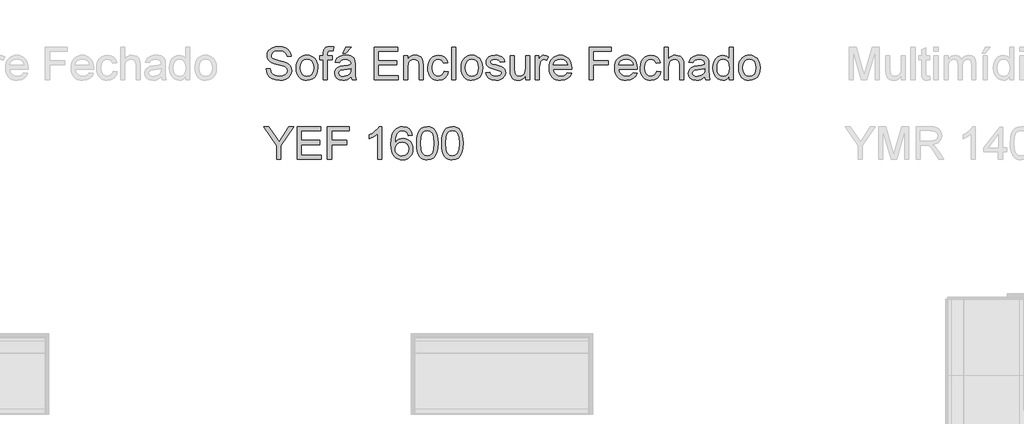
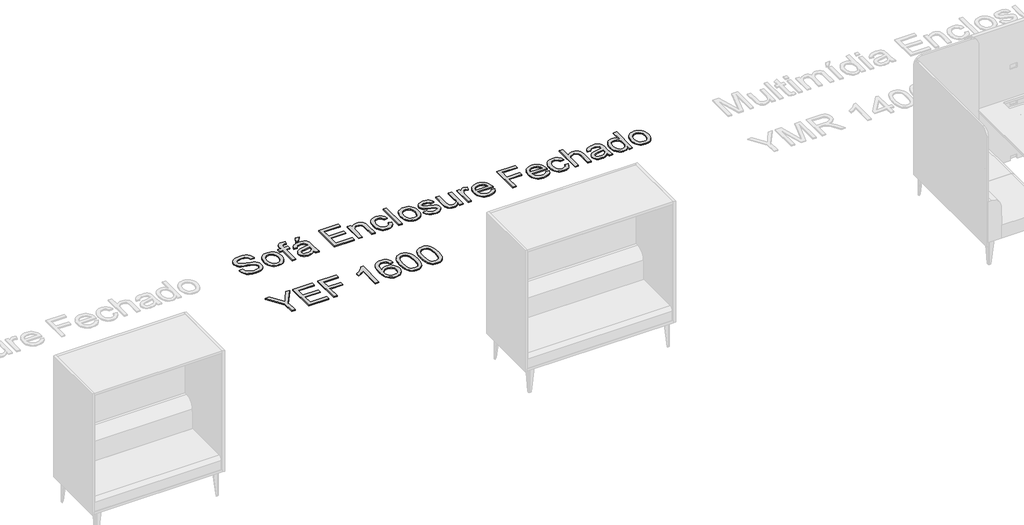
# One storey, part 12 of 26: 1 proxy.
"""IFC4 building model written with IfcOpenShell, lengths in millimetres."""

from ifc_helpers import new_model, si_unit, origin, origin_with_axes, place, context, project, spatial, polyline, outline, extrude, element, save

model = new_model("IFC4")

# Units and contexts
model_context = context("Model", 3, world=origin())
ifc_project = project(units=[si_unit("LENGTHUNIT", "METRE", prefix="MILLI")], contexts=[model_context])

# Site, building, storey
site = spatial("IfcSite", under=ifc_project)
building = spatial("IfcBuilding", under=site)
storey = spatial("IfcBuildingStorey", under=building, Name="Marelli - Linha YOUNG - Planta Baixa", Elevation=0.0)

# Proxy
placement = place(None, origin())
element("IfcBuildingElementProxy", 1, Name="300mm Arial", ObjectType="300mm Arial", at=placement, inside=storey, context=model_context, shape_type="SweptSolid", body=[
    extrude(outline(polyline([(3632.2284572, -27311.0462967), (3669.8995735, -27311.0462967), (3674.2221869, -27331.9511911), (3682.0396793, -27348.7542012), (3694.2349674, -27362.0899235), (3711.6909681, -27372.5929545), (3733.0281238, -27379.4079684), (3756.8668771, -27381.6796398), (3777.8545449, -27379.9597914), (3796.2302506, -27374.8002465), (3811.1202744, -27366.6332662), (3821.6508965, -27355.8911119), (3827.9140874, -27343.557868), (3830.0018178, -27330.6176188), (3828.4383193, -27318.0084634), (3823.7478238, -27307.1099593), (3814.2196802, -27297.8117419), (3798.143237, -27290.0034466), (3743.2920315, -27275.6192606), (3707.2855812, -27266.1003139), (3684.2469713, -27257.0412198), (3665.4941866, -27244.3676851), (3652.2044495, -27229.0086118), (3644.2857895, -27211.2950937), (3641.6462362, -27191.5582247), (3644.9111889, -27169.494502), (3654.7060471, -27148.9207014), (3670.7732932, -27131.4830948), (3692.85541, -27118.8279542), (3719.3613077, -27111.1300235), (3748.6998968, -27108.5640465), (3780.4849012, -27111.2495851), (3808.29678, -27119.3062008), (3831.1422519, -27132.5683467), (3848.0280355, -27150.870476), (3858.7150075, -27173.0721544), (3862.9640445, -27198.0329478), (3825.2929282, -27198.0329478), (3818.3767467, -27175.5553579), (3803.9557725, -27159.3317619), (3781.4230003, -27149.5093126), (3750.1714248, -27146.2351629), (3718.1840853, -27149.4725244), (3696.2399243, -27159.1846091), (3683.5479955, -27173.4768246), (3679.3173525, -27190.4545787), (3682.3155908, -27204.9307352), (3691.3103056, -27216.5742003), (3712.5738849, -27226.9852608), (3752.8201752, -27237.6170505), (3794.3540524, -27247.7154112), (3819.4803927, -27256.526185), (3840.9555042, -27270.1930011), (3855.9374984, -27287.0603906), (3864.7390752, -27306.9444124), (3867.6729341, -27329.6611256), (3864.2976168, -27352.8836766), (3854.1716648, -27374.7266701), (3837.7089456, -27393.52544), (3815.3233262, -27407.6153204), (3788.4035612, -27416.4168972), (3758.3384051, -27419.3507561), (3721.4306439, -27416.1869709), (3691.0527882, -27406.6956154), (3666.85535, -27390.8399014), (3648.4888413, -27368.5830407), (3636.6982234, -27341.4701377), (3632.2284572, -27311.0462967)])), origin_with_axes(), (0.0, 0.0, 1.0), 10.0),
    extrude(outline(polyline([(3910.0529399, -27303.9829624), (3912.0900865, -27275.3203564), (3918.2015261, -27250.621679), (3928.3872588, -27229.88693), (3942.6472847, -27213.1161096), (3957.0038795, -27202.3969479), (3972.8503965, -27194.7404039), (3990.1868355, -27190.1464775), (4009.0131966, -27188.6151687), (4029.7962301, -27190.4798706), (4048.5881022, -27196.0739761), (4065.3888131, -27205.3974855), (4080.1983627, -27218.4503985), (4092.2855855, -27234.7912569), (4100.9193161, -27253.9786022), (4106.0995544, -27276.0124344), (4107.8263005, -27300.8927536), (4104.77288, -27338.950146), (4095.6126183, -27367.9208531), (4080.6122299, -27389.6166938), (4060.0384293, -27405.8494868), (4035.6018678, -27415.9754388), (4009.0131966, -27419.3507561), (3987.9266605, -27417.492952), (3968.9600444, -27411.9195398), (3952.1133483, -27402.6305194), (3937.3865722, -27389.6258909), (3925.428108, -27373.1263834), (3916.886348, -27353.3527261), (3911.7612919, -27330.3049191), (3910.0529399, -27303.9829624)]), holes=[polyline([(3947.7240562, -27303.909386), (3952.0834579, -27338.0028499), (3965.1616628, -27362.2922586), (3984.8433495, -27376.8327945), (4009.0131966, -27381.6796398), (4033.0726791, -27376.8052033), (4052.7175776, -27362.181894), (4065.7957826, -27337.5705885), (4070.1551842, -27302.7321636), (4065.7681914, -27269.6319811), (4052.607213, -27245.6736661), (4032.9347234, -27231.1331303), (4009.0131966, -27226.286285), (3984.8433495, -27231.1147362), (3965.1616628, -27245.6000897), (3952.0834579, -27269.8343162), (3947.7240562, -27303.909386)])]), origin_with_axes(), (0.0, 0.0, 1.0), 10.0),
    extrude(outline(polyline([(4159.6240854, -27414.6418665), (4159.6240854, -27230.9951745), (4126.6618587, -27230.9951745), (4126.6618587, -27193.3240582), (4159.6240854, -27193.3240582), (4159.6240854, -27171.0304093), (4163.597211, -27139.6132869), (4171.1755801, -27127.086905), (4182.8742275, -27117.1724852), (4199.2449763, -27110.7161562), (4220.8396494, -27108.5640465), (4255.1998278, -27112.6843249), (4249.6815979, -27148.0009964), (4227.9765601, -27146.2351629), (4213.6567535, -27147.7986613), (4204.2481715, -27152.4891568), (4199.0334442, -27161.4470834), (4197.2952017, -27175.8128753), (4197.2952017, -27193.3240582), (4239.6752076, -27193.3240582), (4239.6752076, -27230.9951745), (4197.2952017, -27230.9951745), (4197.2952017, -27414.6418665), (4159.6240854, -27414.6418665)])), origin_with_axes(), (0.0, 0.0, 1.0), 10.0),
    extrude(outline(polyline([(4413.9041205, -27386.3885293), (4395.9054939, -27401.821179), (4377.3734384, -27411.9195398), (4357.8848897, -27417.492952), (4337.0167835, -27419.3507561), (4305.5352818, -27414.8809898), (4282.3127308, -27401.4716911), (4267.9929242, -27381.1094227), (4263.2196553, -27355.7807473), (4265.0222771, -27340.1641566), (4270.4301424, -27325.9823057), (4278.7718666, -27313.8421999), (4289.3760651, -27304.3508444), (4315.7532042, -27291.9900093), (4348.347549, -27286.3246266), (4386.8647939, -27280.3649383), (4413.6833913, -27273.3751804), (4413.9041205, -27264.9874709), (4411.3105524, -27248.1752637), (4403.5298482, -27237.1755921), (4386.1290299, -27229.0086118), (4361.8856064, -27226.286285), (4339.4448047, -27228.0981038), (4323.7730317, -27233.5335603), (4313.0860597, -27243.5859358), (4305.5996611, -27259.2485118), (4267.9285448, -27254.5396222), (4274.4676473, -27233.9382305), (4284.2257172, -27217.7514227), (4298.1132625, -27205.3721936), (4317.0407912, -27196.1935378), (4340.1897657, -27190.509761), (4366.7416487, -27188.6151687), (4392.2082798, -27190.2890318), (4412.3958043, -27195.310621), (4427.6169219, -27202.861399), (4438.1843322, -27212.1228282), (4445.1924842, -27223.5731553), (4449.7358268, -27237.6906269), (4451.5752368, -27270.6528536), (4451.5752368, -27317.5210198), (4453.4882232, -27382.9672267), (4460.9930159, -27414.6418665), (4423.3218996, -27414.6418665), (4413.9041205, -27386.3885293)]), holes=[polyline([(4413.9041205, -27311.0462967), (4353.1300149, -27322.5977913), (4320.7196111, -27328.7046325), (4306.0411195, -27338.6374463), (4300.8907716, -27353.1319969), (4303.6958718, -27364.3340037), (4312.1111724, -27373.5126595), (4325.9527325, -27379.6378947), (4345.036611, -27381.6796398), (4365.2701207, -27379.4263625), (4383.1491857, -27372.6665309), (4397.6437363, -27362.7061259), (4407.723703, -27350.8511286), (4412.1934692, -27338.6374463), (4413.6833913, -27321.7148746), (4413.9041205, -27311.0462967)])]), origin_with_axes(), (0.0, 0.0, 1.0), 10.0),
    extrude(outline(polyline([(4338.5618879, -27169.7796105), (4366.8152251, -27113.2729361), (4413.9041205, -27113.2729361), (4366.8152251, -27169.7796105), (4338.5618879, -27169.7796105)])), origin_with_axes(), (0.0, 0.0, 1.0), 10.0),
    extrude(outline(polyline([(4625.8041497, -27414.6418665), (4625.8041497, -27113.2729361), (4842.4130685, -27113.2729361), (4842.4130685, -27150.9440524), (4663.475266, -27150.9440524), (4663.475266, -27240.4129536), (4832.9952894, -27240.4129536), (4832.9952894, -27278.0840699), (4663.475266, -27278.0840699), (4663.475266, -27376.9707502), (4847.121958, -27376.9707502), (4847.121958, -27414.6418665), (4625.8041497, -27414.6418665)])), origin_with_axes(), (0.0, 0.0, 1.0), 10.0),
    extrude(outline(polyline([(4898.9197429, -27414.6418665), (4898.9197429, -27193.3240582), (4936.5908593, -27193.3240582), (4936.5908593, -27224.2261458), (4949.6782612, -27208.6463433), (4965.3960195, -27197.517913), (4983.744134, -27190.8408548), (5004.7226048, -27188.6151687), (5023.2914485, -27190.4085934), (5040.2967937, -27195.7888676), (5054.4786446, -27204.0846066), (5064.5770054, -27214.6244258), (5075.8709826, -27242.32594), (5077.8575454, -27278.7462575), (5077.8575454, -27414.6418665), (5040.1864291, -27414.6418665), (5040.1864291, -27283.823029), (5035.8454216, -27250.4929203), (5029.839748, -27240.5693035), (5020.5047424, -27232.8713727), (5008.5393805, -27227.9325569), (4994.6426381, -27226.286285), (4972.5789154, -27229.9834991), (4953.7709484, -27241.0751412), (4946.2546594, -27250.1296368), (4940.8858815, -27262.5042674), (4936.5908593, -27297.2139337), (4936.5908593, -27414.6418665), (4898.9197429, -27414.6418665)])), origin_with_axes(), (0.0, 0.0, 1.0), 10.0),
    extrude(outline(polyline([(5270.9220165, -27334.5907444), (5308.5931328, -27339.2996339), (5298.0901018, -27372.8044866), (5278.3532328, -27398.1239649), (5251.2403297, -27414.0440583), (5218.6091968, -27419.3507561), (5197.4812739, -27417.4998498), (5178.5376504, -27411.9471309), (5161.7783263, -27402.6925995), (5147.2033015, -27389.7362555), (5135.4057858, -27373.3218207), (5126.9789888, -27353.693017), (5121.9229106, -27330.8498443), (5120.2375512, -27304.7923028), (5123.1162279, -27271.269056), (5131.7522577, -27242.2155754), (5146.2835965, -27218.7539012), (5166.8482, -27202.0060733), (5191.4503085, -27191.9628949), (5218.094162, -27188.6151687), (5249.9251516, -27193.2136936), (5275.3733886, -27207.0092685), (5293.6295326, -27229.2661292), (5303.8842432, -27259.2485118), (5266.2131269, -27263.9574013), (5259.3797189, -27247.5222732), (5248.7387322, -27235.7408523), (5234.878778, -27228.6499268), (5218.3884676, -27226.286285), (5194.0438765, -27230.9399922), (5174.7208747, -27244.901114), (5162.1117193, -27268.9238082), (5157.9086676, -27303.7622332), (5162.0197488, -27339.0697077), (5174.3529927, -27363.1751754), (5193.3265066, -27377.0535237), (5217.358398, -27381.6796398), (5236.8653408, -27378.7917661), (5252.8590105, -27370.1281451), (5264.4932786, -27355.4680476), (5270.9220165, -27334.5907444)])), origin_with_axes(), (0.0, 0.0, 1.0), 10.0),
    extrude(outline(polyline([(5341.5553595, -27414.6418665), (5341.5553595, -27113.2729361), (5379.2264758, -27113.2729361), (5379.2264758, -27414.6418665), (5341.5553595, -27414.6418665)])), origin_with_axes(), (0.0, 0.0, 1.0), 10.0),
    extrude(outline(polyline([(5426.3153712, -27303.9829624), (5428.3525178, -27275.3203564), (5434.4639574, -27250.621679), (5444.6496902, -27229.88693), (5458.909716, -27213.1161096), (5473.2663109, -27202.3969479), (5489.1128278, -27194.7404039), (5506.4492668, -27190.1464775), (5525.2756279, -27188.6151687), (5546.0586614, -27190.4798706), (5564.8505336, -27196.0739761), (5581.6512444, -27205.3974855), (5596.460794, -27218.4503985), (5608.5480168, -27234.7912569), (5617.1817474, -27253.9786022), (5622.3619857, -27276.0124344), (5624.0887318, -27300.8927536), (5621.0353113, -27338.950146), (5611.8750496, -27367.9208531), (5596.8746612, -27389.6166938), (5576.3008607, -27405.8494868), (5551.8642991, -27415.9754388), (5525.2756279, -27419.3507561), (5504.1890918, -27417.492952), (5485.2224757, -27411.9195398), (5468.3757796, -27402.6305194), (5453.6490035, -27389.6258909), (5441.6905394, -27373.1263834), (5433.1487793, -27353.3527261), (5428.0237232, -27330.3049191), (5426.3153712, -27303.9829624)]), holes=[polyline([(5463.9864875, -27303.909386), (5468.3458892, -27338.0028499), (5481.4240941, -27362.2922586), (5501.1057809, -27376.8327945), (5525.2756279, -27381.6796398), (5549.3351104, -27376.8052033), (5568.980009, -27362.181894), (5582.0582139, -27337.5705885), (5586.4176155, -27302.7321636), (5582.0306227, -27269.6319811), (5568.8696444, -27245.6736661), (5549.1971547, -27231.1331303), (5525.2756279, -27226.286285), (5501.1057809, -27231.1147362), (5481.4240941, -27245.6000897), (5468.3458892, -27269.8343162), (5463.9864875, -27303.909386)])]), origin_with_axes(), (0.0, 0.0, 1.0), 10.0),
    extrude(outline(polyline([(5652.3420691, -27348.717413), (5690.0131854, -27344.0085235), (5695.9544796, -27360.1217548), (5707.4507919, -27371.9675551), (5724.5756988, -27379.2516186), (5747.4027766, -27381.6796398), (5769.9539429, -27379.4539537), (5785.8096569, -27372.7768955), (5795.1906478, -27363.101599), (5798.3176448, -27351.8811982), (5795.1722537, -27342.2794781), (5785.7360805, -27334.9586264), (5746.9613182, -27324.2164721), (5690.2339146, -27305.7855842), (5675.8773197, -27296.5241549), (5665.4754563, -27284.2644874), (5659.157083, -27269.7883309), (5657.0509586, -27253.8774346), (5658.7432158, -27239.2817165), (5663.8199873, -27225.8080384), (5671.8214207, -27213.9898293), (5682.2876635, -27204.3605181), (5706.2367814, -27193.2136936), (5738.6471851, -27188.6151687), (5763.1665201, -27190.4637757), (5784.4852817, -27196.0095968), (5801.6285827, -27204.710006), (5813.6215358, -27216.0223773), (5821.5677869, -27230.7836424), (5826.570982, -27249.8307327), (5788.8998657, -27254.5396222), (5784.1449909, -27242.6846249), (5774.7364089, -27233.7542895), (5760.5821491, -27228.1532861), (5741.5902411, -27226.286285), (5719.9587798, -27228.0705127), (5705.5378056, -27233.4231957), (5697.4260076, -27241.1487176), (5694.7220749, -27250.0514619), (5699.2102353, -27261.0143453), (5713.2633275, -27269.3284784), (5745.7105194, -27277.3483059), (5801.0031833, -27295.0802181), (5815.6080985, -27303.5598981), (5826.6813466, -27315.166575), (5833.6619074, -27329.9370371), (5835.9887611, -27347.9080726), (5833.2572372, -27366.4861134), (5825.0626658, -27383.9605081), (5811.7177464, -27398.9608965), (5793.5351788, -27410.116918), (5771.5726237, -27417.0422966), (5746.8877418, -27419.3507561), (5708.9039258, -27414.8993839), (5681.1840175, -27401.5452675), (5662.6795531, -27379.4355596), (5652.3420691, -27348.717413)])), origin_with_axes(), (0.0, 0.0, 1.0), 10.0),
    extrude(outline(polyline([(6019.6354531, -27414.6418665), (6019.6354531, -27376.6028682), (6006.0054251, -27395.3050692), (5990.131317, -27408.6637841), (5972.0131288, -27416.6790131), (5951.6508603, -27419.3507561), (5933.3027458, -27417.4745579), (5916.2238242, -27411.8459634), (5901.8948205, -27403.3846775), (5891.7964597, -27393.0104052), (5880.5760589, -27365.2721028), (5878.3687669, -27330.2497368), (5878.3687669, -27193.3240582), (5916.0398832, -27193.3240582), (5916.0398832, -27312.5178247), (5918.3207516, -27350.924705), (5923.8113904, -27363.7361954), (5933.2199724, -27373.4758713), (5945.9210983, -27379.6286976), (5961.2893686, -27381.6796398), (5977.5405558, -27379.5827124), (5992.7432792, -27373.2919303), (6005.2788582, -27363.3867076), (6013.5286119, -27350.4464584), (6018.1087428, -27332.7237433), (6019.6354531, -27308.4711227), (6019.6354531, -27193.3240582), (6057.3065694, -27193.3240582), (6057.3065694, -27414.6418665), (6019.6354531, -27414.6418665)])), origin_with_axes(), (0.0, 0.0, 1.0), 10.0),
    extrude(outline(polyline([(6109.1043543, -27414.6418665), (6109.1043543, -27193.3240582), (6142.066581, -27193.3240582), (6142.066581, -27226.0655558), (6154.2434751, -27207.0828449), (6165.4638759, -27195.8992322), (6176.721065, -27190.4361846), (6189.0083236, -27188.6151687), (6207.7703054, -27191.5214365), (6226.8265927, -27200.2402397), (6214.2450285, -27234.0118069), (6201.0012767, -27228.2176655), (6187.7575248, -27226.286285), (6176.5095328, -27228.1440891), (6166.4571573, -27233.7175013), (6158.3361623, -27242.5834574), (6152.8823117, -27254.318893), (6148.3021809, -27275.3617432), (6146.7754706, -27298.3175797), (6146.7754706, -27414.6418665), (6109.1043543, -27414.6418665)])), origin_with_axes(), (0.0, 0.0, 1.0), 10.0),
    extrude(outline(polyline([(6405.3229368, -27348.717413), (6442.2582891, -27353.4263025), (6428.9501579, -27381.2565755), (6407.7141698, -27402.0603023), (6379.0285712, -27415.0281426), (6343.3716088, -27419.3507561), (6319.9973065, -27417.4860542), (6299.1705871, -27411.8919486), (6280.8914505, -27402.5684393), (6265.1598966, -27389.5155263), (6252.5093545, -27373.096493), (6243.473253, -27353.6746229), (6238.0515921, -27331.249916), (6236.2443718, -27305.8223724), (6238.0699862, -27279.5326053), (6243.5468294, -27256.3606381), (6252.6749014, -27236.3064708), (6265.4542022, -27219.3701035), (6281.1443693, -27205.9148195), (6299.0050402, -27196.3039024), (6319.0362148, -27190.5373521), (6341.2378932, -27188.6151687), (6362.724501, -27190.5327536), (6382.1555682, -27196.2855083), (6399.5310946, -27205.8734328), (6414.8510805, -27219.2965271), (6427.356769, -27236.1961062), (6436.2894037, -27256.2134853), (6441.6489846, -27279.3486643), (6443.4355115, -27305.6016432), (6443.2147823, -27315.7551862), (6273.9154881, -27315.7551862), (6280.4361965, -27343.9533412), (6295.5837376, -27364.6834916), (6317.4451252, -27377.4306027), (6344.1073728, -27381.6796398), (6364.1569415, -27379.7114711), (6381.0427251, -27373.8069651), (6394.7647235, -27363.5982397), (6405.3229368, -27348.717413)]), holes=[polyline([(6273.9154881, -27278.0840699), (6405.7643952, -27278.0840699), (6400.6692296, -27258.181654), (6390.6812334, -27243.9446208), (6368.7186783, -27230.7008689), (6341.0907404, -27226.286285), (6315.6976857, -27229.8087551), (6294.7008208, -27240.3761654), (6280.1051027, -27256.8480818), (6273.9154881, -27278.0840699)])]), origin_with_axes(), (0.0, 0.0, 1.0), 10.0),
    extrude(outline(polyline([(6603.5377558, -27414.6418665), (6603.5377558, -27113.2729361), (6806.0200059, -27113.2729361), (6806.0200059, -27150.9440524), (6641.2088721, -27150.9440524), (6641.2088721, -27240.4129536), (6782.4755583, -27240.4129536), (6782.4755583, -27278.0840699), (6641.2088721, -27278.0840699), (6641.2088721, -27414.6418665), (6603.5377558, -27414.6418665)])), origin_with_axes(), (0.0, 0.0, 1.0), 10.0),
    extrude(outline(polyline([(7008.0607977, -27348.717413), (7044.99615, -27353.4263025), (7031.6880188, -27381.2565755), (7010.4520307, -27402.0603023), (6981.7664321, -27415.0281426), (6946.1094697, -27419.3507561), (6922.7351674, -27417.4860542), (6901.908448, -27411.8919486), (6883.6293114, -27402.5684393), (6867.8977575, -27389.5155263), (6855.2472154, -27373.096493), (6846.2111139, -27353.6746229), (6840.789453, -27331.249916), (6838.9822327, -27305.8223724), (6840.8078471, -27279.5326053), (6846.2846903, -27256.3606381), (6855.4127623, -27236.3064708), (6868.1920631, -27219.3701035), (6883.8822302, -27205.9148195), (6901.7429011, -27196.3039024), (6921.7740757, -27190.5373521), (6943.9757541, -27188.6151687), (6965.4623619, -27190.5327536), (6984.893429, -27196.2855083), (7002.2689555, -27205.8734328), (7017.5889414, -27219.2965271), (7030.0946299, -27236.1961062), (7039.0272646, -27256.2134853), (7044.3868455, -27279.3486643), (7046.1733724, -27305.6016432), (7045.9526432, -27315.7551862), (6876.653349, -27315.7551862), (6883.1740574, -27343.9533412), (6898.3215985, -27364.6834916), (6920.1829861, -27377.4306027), (6946.8452337, -27381.6796398), (6966.8948024, -27379.7114711), (6983.780586, -27373.8069651), (6997.5025844, -27363.5982397), (7008.0607977, -27348.717413)]), holes=[polyline([(6876.653349, -27278.0840699), (7008.5022561, -27278.0840699), (7003.4070905, -27258.181654), (6993.4190943, -27243.9446208), (6971.4565392, -27230.7008689), (6943.8286013, -27226.286285), (6918.4355466, -27229.8087551), (6897.4386817, -27240.3761654), (6882.8429636, -27256.8480818), (6876.653349, -27278.0840699)])]), origin_with_axes(), (0.0, 0.0, 1.0), 10.0),
    extrude(outline(polyline([(7225.1111748, -27334.5907444), (7262.7822912, -27339.2996339), (7252.2792602, -27372.8044866), (7232.5423912, -27398.1239649), (7205.4294881, -27414.0440583), (7172.7983551, -27419.3507561), (7151.6704323, -27417.4998498), (7132.7268088, -27411.9471309), (7115.9674847, -27402.6925995), (7101.3924599, -27389.7362555), (7089.5949441, -27373.3218207), (7081.1681472, -27353.693017), (7076.112069, -27330.8498443), (7074.4267096, -27304.7923028), (7077.3053862, -27271.269056), (7085.9414161, -27242.2155754), (7100.4727549, -27218.7539012), (7121.0373584, -27202.0060733), (7145.6394668, -27191.9628949), (7172.2833203, -27188.6151687), (7204.11431, -27193.2136936), (7229.562547, -27207.0092685), (7247.818691, -27229.2661292), (7258.0734016, -27259.2485118), (7220.4022853, -27263.9574013), (7213.5688773, -27247.5222732), (7202.9278905, -27235.7408523), (7189.0679364, -27228.6499268), (7172.5776259, -27226.286285), (7148.2330349, -27230.9399922), (7128.9100331, -27244.901114), (7116.3008777, -27268.9238082), (7112.0978259, -27303.7622332), (7116.2089072, -27339.0697077), (7128.5421511, -27363.1751754), (7147.515665, -27377.0535237), (7171.5475564, -27381.6796398), (7191.0544991, -27378.7917661), (7207.0481689, -27370.1281451), (7218.682437, -27355.4680476), (7225.1111748, -27334.5907444)])), origin_with_axes(), (0.0, 0.0, 1.0), 10.0),
    extrude(outline(polyline([(7295.7445179, -27414.6418665), (7295.7445179, -27113.2729361), (7333.4156342, -27113.2729361), (7333.4156342, -27224.078993), (7347.2525958, -27208.5635699), (7362.7910115, -27197.4811248), (7380.0308815, -27190.8316577), (7398.9722058, -27188.6151687), (7421.7257072, -27191.0339928), (7441.2786352, -27198.2904652), (7456.6744967, -27209.8143687), (7466.9567985, -27225.0354862), (7472.7509399, -27245.9495776), (7474.6823204, -27274.5524028), (7474.6823204, -27414.6418665), (7437.0112041, -27414.6418665), (7437.0112041, -27278.4519519), (7434.0129658, -27254.870716), (7425.018251, -27238.7206964), (7410.5237004, -27229.3948879), (7391.0259547, -27226.286285), (7375.1058613, -27228.3832124), (7360.1606553, -27234.6739945), (7347.7814261, -27244.5516261), (7339.5592635, -27257.4091018), (7334.9515416, -27274.4972205), (7333.4156342, -27297.0667809), (7333.4156342, -27414.6418665), (7295.7445179, -27414.6418665)])), origin_with_axes(), (0.0, 0.0, 1.0), 10.0),
    extrude(outline(polyline([(7667.7467914, -27386.3885293), (7649.7481648, -27401.821179), (7631.2161093, -27411.9195398), (7611.7275606, -27417.492952), (7590.8594545, -27419.3507561), (7559.3779527, -27414.8809898), (7536.1554018, -27401.4716911), (7521.8355951, -27381.1094227), (7517.0623262, -27355.7807473), (7518.864948, -27340.1641566), (7524.2728133, -27325.9823057), (7532.6145376, -27313.8421999), (7543.2187361, -27304.3508444), (7569.5958751, -27291.9900093), (7602.1902199, -27286.3246266), (7640.7074648, -27280.3649383), (7667.5260622, -27273.3751804), (7667.7467914, -27264.9874709), (7665.1532234, -27248.1752637), (7657.3725192, -27237.1755921), (7639.9717008, -27229.0086118), (7615.7282773, -27226.286285), (7593.2874756, -27228.0981038), (7577.6157026, -27233.5335603), (7566.9287307, -27243.5859358), (7559.4423321, -27259.2485118), (7521.7712158, -27254.5396222), (7528.3103182, -27233.9382305), (7538.0683881, -27217.7514227), (7551.9559335, -27205.3721936), (7570.8834621, -27196.1935378), (7594.0324367, -27190.509761), (7620.5843197, -27188.6151687), (7646.0509508, -27190.2890318), (7666.2384753, -27195.310621), (7681.4595928, -27202.861399), (7692.0270031, -27212.1228282), (7699.0351551, -27223.5731553), (7703.5784978, -27237.6906269), (7705.4179078, -27270.6528536), (7705.4179078, -27317.5210198), (7707.3308941, -27382.9672267), (7714.8356868, -27414.6418665), (7677.1645705, -27414.6418665), (7667.7467914, -27386.3885293)]), holes=[polyline([(7667.7467914, -27311.0462967), (7606.9726858, -27322.5977913), (7574.5622821, -27328.7046325), (7559.8837905, -27338.6374463), (7554.7334425, -27353.1319969), (7557.5385427, -27364.3340037), (7565.9538434, -27373.5126595), (7579.7954034, -27379.6378947), (7598.8792819, -27381.6796398), (7619.1127917, -27379.4263625), (7636.9918566, -27372.6665309), (7651.4864073, -27362.7061259), (7661.5663739, -27350.8511286), (7666.0361402, -27338.6374463), (7667.5260622, -27321.7148746), (7667.7467914, -27311.0462967)])]), origin_with_axes(), (0.0, 0.0, 1.0), 10.0),
    extrude(outline(polyline([(7893.7734893, -27414.6418665), (7893.7734893, -27379.1044658), (7882.5025047, -27396.7122178), (7868.8494841, -27409.2891835), (7852.8144276, -27416.8353629), (7834.3973353, -27419.3507561), (7810.0435472, -27415.7087243), (7787.7498983, -27404.7826291), (7768.8775519, -27387.3358254), (7754.7876715, -27364.1316686), (7746.0136859, -27336.1082576), (7743.0890241, -27304.2036916), (7745.7837597, -27272.6945987), (7753.8679665, -27244.2389264), (7767.3324475, -27220.4553554), (7786.1680057, -27202.9625665), (7808.9490982, -27192.2020181), (7834.2501825, -27188.6151687), (7852.6810704, -27191.1811456), (7868.9782428, -27198.8790764), (7882.7922117, -27210.6788914), (7893.7734893, -27225.550521), (7893.7734893, -27113.2729361), (7931.4446056, -27113.2729361), (7931.4446056, -27414.6418665), (7893.7734893, -27414.6418665)]), holes=[polyline([(7780.7601404, -27304.0565388), (7785.0091774, -27338.1316086), (7797.7562885, -27362.365835), (7816.279147, -27376.8511886), (7837.855426, -27381.6796398), (7859.422508, -27377.0719178), (7877.4763169, -27363.2487518), (7889.6991962, -27339.9526245), (7893.7734893, -27306.9260183), (7889.6256198, -27270.8184005), (7877.1820113, -27245.7840307), (7858.6683499, -27231.1607214), (7836.3103216, -27226.286285), (7814.5133134, -27230.9675834), (7796.6526426, -27245.0114786), (7784.7332659, -27269.1353404), (7780.7601404, -27304.0565388)])]), origin_with_axes(), (0.0, 0.0, 1.0), 10.0),
    extrude(outline(polyline([(7978.533501, -27303.9829624), (7980.5706475, -27275.3203564), (7986.6820872, -27250.621679), (7996.8678199, -27229.88693), (8011.1278457, -27213.1161096), (8025.4844406, -27202.3969479), (8041.3309575, -27194.7404039), (8058.6673966, -27190.1464775), (8077.4937577, -27188.6151687), (8098.2767911, -27190.4798706), (8117.0686633, -27196.0739761), (8133.8693742, -27205.3974855), (8148.6789237, -27218.4503985), (8160.7661465, -27234.7912569), (8169.3998771, -27253.9786022), (8174.5801155, -27276.0124344), (8176.3068616, -27300.8927536), (8173.253441, -27338.950146), (8164.0931793, -27367.9208531), (8149.092791, -27389.6166938), (8128.5189904, -27405.8494868), (8104.0824289, -27415.9754388), (8077.4937577, -27419.3507561), (8056.4072216, -27417.492952), (8037.4406054, -27411.9195398), (8020.5939093, -27402.6305194), (8005.8671332, -27389.6258909), (7993.9086691, -27373.1263834), (7985.366909, -27353.3527261), (7980.241853, -27330.3049191), (7978.533501, -27303.9829624)]), holes=[polyline([(8016.2046173, -27303.909386), (8020.5640189, -27338.0028499), (8033.6422238, -27362.2922586), (8053.3239106, -27376.8327945), (8077.4937577, -27381.6796398), (8101.5532402, -27376.8052033), (8121.1981387, -27362.181894), (8134.2763436, -27337.5705885), (8138.6357453, -27302.7321636), (8134.2487525, -27269.6319811), (8121.0877741, -27245.6736661), (8101.4152844, -27231.1331303), (8077.4937577, -27226.286285), (8053.3239106, -27231.1147362), (8033.6422238, -27245.6000897), (8020.5640189, -27269.8343162), (8016.2046173, -27303.909386)])]), origin_with_axes(), (0.0, 0.0, 1.0), 10.0),
    extrude(outline(polyline([(3731.1151375, -28146.4907736), (3731.1151375, -28018.8357213), (3613.392899, -27845.1218432), (3657.833044, -27845.1218432), (3720.6672888, -27937.9016823), (3752.8201752, -27985.2113069), (3785.046638, -27934.517168), (3842.0683472, -27845.1218432), (3886.5084922, -27845.1218432), (3768.7862538, -28018.8357213), (3768.7862538, -28146.4907736), (3731.1151375, -28146.4907736)])), origin_with_axes(), (0.0, 0.0, 1.0), 10.0),
    extrude(outline(polyline([(3919.470719, -28146.4907736), (3919.470719, -27845.1218432), (4136.0796377, -27845.1218432), (4136.0796377, -27882.7929595), (3957.1418353, -27882.7929595), (3957.1418353, -27972.2618607), (4126.6618587, -27972.2618607), (4126.6618587, -28009.932977), (3957.1418353, -28009.932977), (3957.1418353, -28108.8196573), (4140.7885273, -28108.8196573), (4140.7885273, -28146.4907736), (3919.470719, -28146.4907736)])), origin_with_axes(), (0.0, 0.0, 1.0), 10.0),
    extrude(outline(polyline([(4197.2952017, -28146.4907736), (4197.2952017, -27845.1218432), (4399.7774519, -27845.1218432), (4399.7774519, -27882.7929595), (4234.9663181, -27882.7929595), (4234.9663181, -27972.2618607), (4376.2330042, -27972.2618607), (4376.2330042, -28009.932977), (4234.9663181, -28009.932977), (4234.9663181, -28146.4907736), (4197.2952017, -28146.4907736)])), origin_with_axes(), (0.0, 0.0, 1.0), 10.0),
    extrude(outline(polyline([(4696.4374928, -28146.4907736), (4658.7663765, -28146.4907736), (4658.7663765, -27911.6349079), (4623.081823, -27937.0555537), (4583.4241439, -27956.0750529), (4583.4241439, -27920.4640758), (4613.0110533, -27904.3692385), (4638.6432314, -27885.2209806), (4658.8491499, -27864.8587122), (4672.1572811, -27845.1218432), (4696.4374928, -27845.1218432), (4696.4374928, -28146.4907736)])), origin_with_axes(), (0.0, 0.0, 1.0), 10.0),
    extrude(outline(polyline([(4978.9708651, -27925.1729653), (4941.2997488, -27929.8818548), (4935.2296959, -27911.2118436), (4927.0259274, -27898.4647325), (4909.9378087, -27886.7109027), (4889.2812347, -27882.7929595), (4871.7700517, -27885.0738278), (4855.2889383, -27891.9164329), (4841.1346786, -27906.3282101), (4829.5739869, -27926.1662467), (4821.7656915, -27954.2264459), (4818.8686208, -27993.3047108), (4833.9793737, -27975.6739662), (4852.088365, -27963.2487518), (4872.1839189, -27955.8819149), (4893.2543602, -27953.4263025), (4911.3541544, -27955.1047641), (4928.055997, -27960.1401489), (4943.359888, -27968.532457), (4957.2658274, -27980.2816882), (4968.8219206, -27994.6888668), (4977.0762728, -28011.0550171), (4982.0288842, -28029.380139), (4983.6797546, -28049.6642325), (4980.5711518, -28076.6391798), (4971.2453432, -28101.6459584), (4956.4748811, -28122.8543554), (4937.0323176, -28138.4341579), (4913.8005697, -28148.0082868), (4887.6625539, -28151.1996631), (4865.2056574, -28149.0843417), (4844.9238631, -28142.7383773), (4826.8171712, -28132.1617699), (4810.8855815, -28117.3545196), (4797.8970478, -28097.6912269), (4788.6195237, -28072.5464926), (4783.0530093, -28041.9203165), (4781.1975045, -28005.8126986), (4783.2576437, -27965.3318836), (4789.4380612, -27930.7831657), (4799.738757, -27902.166545), (4814.1597313, -27879.4820215), (4829.7901175, -27864.4494435), (4847.9129043, -27853.7118877), (4868.5280916, -27847.2693543), (4891.6356794, -27845.1218432), (4924.6898767, -27850.437738), (4951.1589863, -27866.3854225), (4969.7002388, -27891.7140978), (4978.9708651, -27925.1729653)]), holes=[polyline([(4818.8686208, -28049.0756213), (4821.0483216, -28065.7682668), (4827.5874241, -28081.7067543), (4837.7409671, -28095.4103586), (4850.7639898, -28105.3983547), (4866.481748, -28111.4959988), (4884.7194979, -28113.5285468), (4909.5791238, -28109.316298), (4929.1228548, -28096.6795515), (4941.7871924, -28076.8139237), (4946.0086383, -28050.9150313), (4941.8423747, -28026.0554054), (4929.3435839, -28007.1002856), (4909.4687592, -27995.0981355), (4883.1743936, -27991.0974188), (4858.3515559, -27995.0981355), (4837.5938144, -28007.1002856), (4823.5499192, -28025.5955529), (4818.8686208, -28049.0756213)])]), origin_with_axes(), (0.0, 0.0, 1.0), 10.0),
    extrude(outline(polyline([(5016.6419814, -27998.2343295), (5019.4102934, -27949.9958029), (5027.7152295, -27911.5245433), (5041.4740161, -27882.2319394), (5060.6038798, -27861.5293801), (5085.2427765, -27849.2237274), (5115.5286617, -27845.1218432), (5138.7420156, -27847.5498643), (5159.5273483, -27854.8339278), (5176.9097726, -27866.6889251), (5189.9144011, -27882.8297477), (5199.7368504, -27903.1184397), (5207.5727369, -27927.4170455), (5212.7046907, -27958.2731478), (5214.415342, -27998.2343295), (5211.6746211, -28046.1969447), (5203.4524586, -28084.5762338), (5189.7764454, -28113.8964288), (5170.6741728, -28134.6817616), (5145.9800939, -28147.0701877), (5115.5286617, -28151.1996631), (5094.7801172, -28149.4062384), (5076.3860174, -28144.0259642), (5060.3463624, -28135.0588406), (5046.6611522, -28122.5048675), (5033.527765, -28099.8111469), (5024.1467741, -28071.5348171), (5018.5181796, -28037.675878), (5016.6419814, -27998.2343295)]), holes=[polyline([(5054.3130977, -27998.1607531), (5058.7276817, -28057.4173455), (5064.2459116, -28077.6853442), (5071.9714335, -28091.7131445), (5091.6899084, -28108.0746963), (5115.5286617, -28113.5285468), (5139.367415, -28108.0563022), (5159.0858899, -28091.6395681), (5166.8114118, -28077.5887752), (5172.3296418, -28057.325375), (5176.7442257, -27998.1607531), (5172.4767946, -27940.237733), (5167.1425056, -27920.0364129), (5159.6745011, -27905.6752196), (5139.9928144, -27888.5135245), (5115.0872033, -27882.7929595), (5091.5059674, -27887.8329428), (5072.5600447, -27902.9528928), (5064.5770054, -27918.5878776), (5058.8748344, -27939.6675159), (5054.3130977, -27998.1607531)])]), origin_with_axes(), (0.0, 0.0, 1.0), 10.0),
    extrude(outline(polyline([(5247.3775688, -27998.2343295), (5250.1458808, -27949.9958029), (5258.4508168, -27911.5245433), (5272.2096035, -27882.2319394), (5291.3394672, -27861.5293801), (5315.9783638, -27849.2237274), (5346.2642491, -27845.1218432), (5369.477603, -27847.5498643), (5390.2629357, -27854.8339278), (5407.64536, -27866.6889251), (5420.6499885, -27882.8297477), (5430.4724378, -27903.1184397), (5438.3083243, -27927.4170455), (5443.4402781, -27958.2731478), (5445.1509294, -27998.2343295), (5442.4102085, -28046.1969447), (5434.1880459, -28084.5762338), (5420.5120328, -28113.8964288), (5401.4097602, -28134.6817616), (5376.7156812, -28147.0701877), (5346.2642491, -28151.1996631), (5325.5157046, -28149.4062384), (5307.1216048, -28144.0259642), (5291.0819498, -28135.0588406), (5277.3967396, -28122.5048675), (5264.2633524, -28099.8111469), (5254.8823615, -28071.5348171), (5249.253767, -28037.675878), (5247.3775688, -27998.2343295)]), holes=[polyline([(5285.0486851, -27998.1607531), (5289.463269, -28057.4173455), (5294.981499, -28077.6853442), (5302.7070209, -28091.7131445), (5322.4254958, -28108.0746963), (5346.2642491, -28113.5285468), (5370.1030024, -28108.0563022), (5389.8214773, -28091.6395681), (5397.5469992, -28077.5887752), (5403.0652291, -28057.325375), (5407.4798131, -27998.1607531), (5403.2123819, -27940.237733), (5397.878093, -27920.0364129), (5390.4100885, -27905.6752196), (5370.7284018, -27888.5135245), (5345.8227907, -27882.7929595), (5322.2415548, -27887.8329428), (5303.295632, -27902.9528928), (5295.3125928, -27918.5878776), (5289.6104218, -27939.6675159), (5285.0486851, -27998.1607531)])]), origin_with_axes(), (0.0, 0.0, 1.0), 10.0),
])

save(model, "model.ifc")
